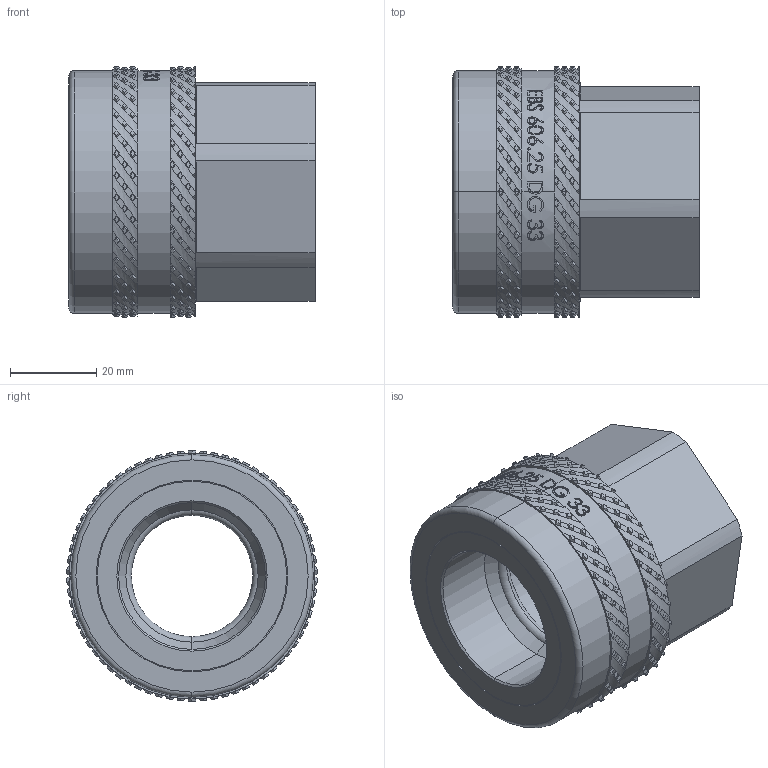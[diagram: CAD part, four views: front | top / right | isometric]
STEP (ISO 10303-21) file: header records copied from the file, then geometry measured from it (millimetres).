
FILE_DESCRIPTION (( 'STEP AP214' ), '1' );
FILE_NAME ('606.25 DG 33.STEP', '2021-11-03T14:34:43', ( '' ), ( '' ), 'SwSTEP 2.0', 'SolidWorks 2018', '' );
FILE_SCHEMA (( 'AUTOMOTIVE_DESIGN' ));
Products named in the file (1): 606.25 DG 33
Bounding box: 57 x 57.99 x 58 mm (x, y, z)
Volume: 79986.9 mm3; surface area: 20173.8 mm2
Topology: 1 solids, 1 shells, 1866 faces, 4626 edges, 2785 vertices
Faces by surface type: bspline 1459, cylinder 331, plane 66, torus 6, cone 4
Entity records: 128189 total; most frequent: CARTESIAN_POINT 102013, ORIENTED_EDGE 9252, EDGE_CURVE 4626, VERTEX_POINT 2785, EDGE_LOOP 1891, FACE_OUTER_BOUND 1866, ADVANCED_FACE 1866, DIRECTION 1340
